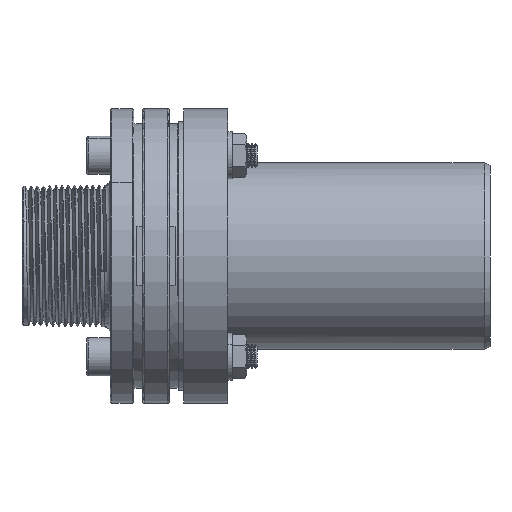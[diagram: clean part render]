
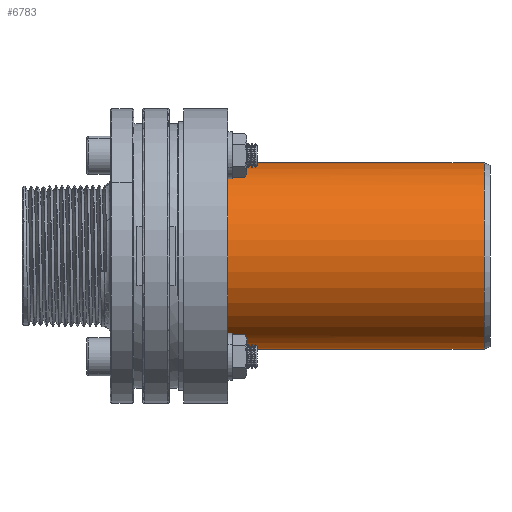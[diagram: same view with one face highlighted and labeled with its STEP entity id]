
A CAD part, left-side view. The second image highlights one B-rep face of the part: STEP entity #6783.
In plain terms, the highlighted cylindrical face has radius 31.6 mm (diameter 63.2 mm), a partial arc.
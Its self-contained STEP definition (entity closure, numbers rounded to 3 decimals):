
#417 = ORIENTED_EDGE ( 'NONE', *, *, #7787, .F. ) ;
#418 = ORIENTED_EDGE ( 'NONE', *, *, #29322, .T. ) ;
#419 = ORIENTED_EDGE ( 'NONE', *, *, #7786, .T. ) ;
#420 = ORIENTED_EDGE ( 'NONE', *, *, #7785, .F. ) ;
#421 = ORIENTED_EDGE ( 'NONE', *, *, #7784, .T. ) ;
#422 = ORIENTED_EDGE ( 'NONE', *, *, #7783, .T. ) ;
#423 = ORIENTED_EDGE ( 'NONE', *, *, #6891, .T. ) ;
#424 = ORIENTED_EDGE ( 'NONE', *, *, #7782, .T. ) ;
#425 = ORIENTED_EDGE ( 'NONE', *, *, #7781, .T. ) ;
#426 = ORIENTED_EDGE ( 'NONE', *, *, #7780, .T. ) ;
#427 = ORIENTED_EDGE ( 'NONE', *, *, #6867, .T. ) ;
#428 = ORIENTED_EDGE ( 'NONE', *, *, #7779, .T. ) ;
#1820 = CIRCLE ( 'NONE', #1822, 31.6 ) ;
#1822 = AXIS2_PLACEMENT_3D ( 'NONE', #20694, #20695, #20696 ) ;
#5922 = CARTESIAN_POINT ( 'NONE',  ( -16.767, 87.505, 26.785 ) ) ;
#5953 = CARTESIAN_POINT ( 'NONE',  ( -14.813, 89.105, -27.913 ) ) ;
#6004 = CARTESIAN_POINT ( 'NONE',  ( -14.813, 87.505, -27.913 ) ) ;
#6068 = CARTESIAN_POINT ( 'NONE',  ( -16.767, 89.105, 26.785 ) ) ;
#6108 = CARTESIAN_POINT ( 'NONE',  ( 0., 2., -31.6 ) ) ;
#6146 = CARTESIAN_POINT ( 'NONE',  ( -14.813, 87.505, 27.913 ) ) ;
#6158 = CARTESIAN_POINT ( 'NONE',  ( 0., 93.715, 31.6 ) ) ;
#6164 = CARTESIAN_POINT ( 'NONE',  ( 0., 2., 31.6 ) ) ;
#6175 = CARTESIAN_POINT ( 'NONE',  ( -16.767, 87.505, -26.785 ) ) ;
#6783 = ADVANCED_FACE ( 'NONE', ( #16852, #16854, #16855 ), #16853, .T. ) ;
#6867 = EDGE_CURVE ( 'NONE', #25146, #25095, #21784, .T. ) ;
#6891 = EDGE_CURVE ( 'NONE', #25064, #25210, #21857, .T. ) ;
#7779 = EDGE_CURVE ( 'NONE', #25095, #25413, #17640, .T. ) ;
#7780 = EDGE_CURVE ( 'NONE', #25317, #25146, #17644, .T. ) ;
#7781 = EDGE_CURVE ( 'NONE', #25413, #25317, #22996, .T. ) ;
#7782 = EDGE_CURVE ( 'NONE', #25210, #25391, #17648, .T. ) ;
#7783 = EDGE_CURVE ( 'NONE', #25288, #25064, #17649, .T. ) ;
#7784 = EDGE_CURVE ( 'NONE', #25391, #25288, #23008, .T. ) ;
#7785 = EDGE_CURVE ( 'NONE', #25306, #25250, #17653, .T. ) ;
#7786 = EDGE_CURVE ( 'NONE', #25375, #25250, #23019, .T. ) ;
#7787 = EDGE_CURVE ( 'NONE', #25300, #25306, #23018, .T. ) ;
#9847 = EDGE_LOOP ( 'NONE', ( #425, #426, #427, #428 ) ) ;
#9849 = EDGE_LOOP ( 'NONE', ( #417, #418, #419, #420 ) ) ;
#9851 = EDGE_LOOP ( 'NONE', ( #421, #422, #423, #424 ) ) ;
#14286 = CARTESIAN_POINT ( 'NONE',  ( 0., 93.715, -31.6 ) ) ;
#14302 = CARTESIAN_POINT ( 'NONE',  ( -14.813, 89.105, 27.913 ) ) ;
#14324 = CARTESIAN_POINT ( 'NONE',  ( -16.767, 89.105, -26.785 ) ) ;
#16583 = AXIS2_PLACEMENT_3D ( 'NONE', #16856, #16851, #16849 ) ;
#16849 = DIRECTION ( 'NONE',  ( 0., 0., -1. ) ) ;
#16851 = DIRECTION ( 'NONE',  ( 0., -1., 0. ) ) ;
#16852 = FACE_OUTER_BOUND ( 'NONE', #9849, .T. ) ;
#16853 = CYLINDRICAL_SURFACE ( 'NONE', #16583, 31.6 ) ;
#16854 = FACE_BOUND ( 'NONE', #9851, .T. ) ;
#16855 = FACE_BOUND ( 'NONE', #9847, .T. ) ;
#16856 = CARTESIAN_POINT ( 'NONE',  ( 0., 0., 0. ) ) ;
#17253 = VECTOR ( 'NONE', #21789, 1000. ) ;
#17291 = VECTOR ( 'NONE', #21862, 1000. ) ;
#17640 = CIRCLE ( 'NONE', #17645, 31.6 ) ;
#17642 = VECTOR ( 'NONE', #23024, 1000. ) ;
#17644 = CIRCLE ( 'NONE', #17647, 31.6 ) ;
#17645 = AXIS2_PLACEMENT_3D ( 'NONE', #23000, #23001, #23002 ) ;
#17646 = VECTOR ( 'NONE', #23007, 1000. ) ;
#17647 = AXIS2_PLACEMENT_3D ( 'NONE', #23003, #23004, #23005 ) ;
#17648 = CIRCLE ( 'NONE', #17650, 31.6 ) ;
#17649 = CIRCLE ( 'NONE', #17652, 31.6 ) ;
#17650 = AXIS2_PLACEMENT_3D ( 'NONE', #23010, #23011, #23012 ) ;
#17651 = VECTOR ( 'NONE', #23017, 1000. ) ;
#17652 = AXIS2_PLACEMENT_3D ( 'NONE', #23014, #23015, #23016 ) ;
#17653 = CIRCLE ( 'NONE', #17655, 31.6 ) ;
#17654 = VECTOR ( 'NONE', #23027, 1000. ) ;
#17655 = AXIS2_PLACEMENT_3D ( 'NONE', #23020, #23021, #23022 ) ;
#20694 = CARTESIAN_POINT ( 'NONE',  ( 0., 93.715, 0. ) ) ;
#20695 = DIRECTION ( 'NONE',  ( 0., -1., 0. ) ) ;
#20696 = DIRECTION ( 'NONE',  ( 0., 0., -1. ) ) ;
#21780 = CARTESIAN_POINT ( 'NONE',  ( -14.813, 88.305, -27.913 ) ) ;
#21784 = LINE ( 'NONE', #21780, #17253 ) ;
#21789 = DIRECTION ( 'NONE',  ( 0., 1., 0. ) ) ;
#21853 = CARTESIAN_POINT ( 'NONE',  ( -16.767, 88.305, 26.785 ) ) ;
#21857 = LINE ( 'NONE', #21853, #17291 ) ;
#21862 = DIRECTION ( 'NONE',  ( 0., 1., 0. ) ) ;
#22996 = LINE ( 'NONE', #23006, #17646 ) ;
#23000 = CARTESIAN_POINT ( 'NONE',  ( 0., 89.105, 0. ) ) ;
#23001 = DIRECTION ( 'NONE',  ( 0., 1., 0. ) ) ;
#23002 = DIRECTION ( 'NONE',  ( 0., 0., -1. ) ) ;
#23003 = CARTESIAN_POINT ( 'NONE',  ( 0., 87.505, 0. ) ) ;
#23004 = DIRECTION ( 'NONE',  ( 0., -1., 0. ) ) ;
#23005 = DIRECTION ( 'NONE',  ( 0., 0., 1. ) ) ;
#23006 = CARTESIAN_POINT ( 'NONE',  ( -16.767, 88.305, -26.785 ) ) ;
#23007 = DIRECTION ( 'NONE',  ( 0., -1., 0. ) ) ;
#23008 = LINE ( 'NONE', #23009, #17651 ) ;
#23009 = CARTESIAN_POINT ( 'NONE',  ( -14.813, 88.305, 27.913 ) ) ;
#23010 = CARTESIAN_POINT ( 'NONE',  ( 0., 89.105, 0. ) ) ;
#23011 = DIRECTION ( 'NONE',  ( 0., 1., 0. ) ) ;
#23012 = DIRECTION ( 'NONE',  ( 1., 0., 0. ) ) ;
#23013 = CARTESIAN_POINT ( 'NONE',  ( 0., 0., -31.6 ) ) ;
#23014 = CARTESIAN_POINT ( 'NONE',  ( 0., 87.505, 0. ) ) ;
#23015 = DIRECTION ( 'NONE',  ( 0., -1., 0. ) ) ;
#23016 = DIRECTION ( 'NONE',  ( -1., 0., 0. ) ) ;
#23017 = DIRECTION ( 'NONE',  ( 0., -1., 0. ) ) ;
#23018 = LINE ( 'NONE', #23025, #17654 ) ;
#23019 = LINE ( 'NONE', #23013, #17642 ) ;
#23020 = CARTESIAN_POINT ( 'NONE',  ( 0., 2., 0. ) ) ;
#23021 = DIRECTION ( 'NONE',  ( 0., -1., 0. ) ) ;
#23022 = DIRECTION ( 'NONE',  ( 0., 0., -1. ) ) ;
#23024 = DIRECTION ( 'NONE',  ( 0., -1., 0. ) ) ;
#23025 = CARTESIAN_POINT ( 'NONE',  ( 0., 0., 31.6 ) ) ;
#23027 = DIRECTION ( 'NONE',  ( 0., -1., 0. ) ) ;
#25064 = VERTEX_POINT ( 'NONE', #5922 ) ;
#25095 = VERTEX_POINT ( 'NONE', #5953 ) ;
#25146 = VERTEX_POINT ( 'NONE', #6004 ) ;
#25210 = VERTEX_POINT ( 'NONE', #6068 ) ;
#25250 = VERTEX_POINT ( 'NONE', #6108 ) ;
#25288 = VERTEX_POINT ( 'NONE', #6146 ) ;
#25300 = VERTEX_POINT ( 'NONE', #6158 ) ;
#25306 = VERTEX_POINT ( 'NONE', #6164 ) ;
#25317 = VERTEX_POINT ( 'NONE', #6175 ) ;
#25375 = VERTEX_POINT ( 'NONE', #14286 ) ;
#25391 = VERTEX_POINT ( 'NONE', #14302 ) ;
#25413 = VERTEX_POINT ( 'NONE', #14324 ) ;
#29322 = EDGE_CURVE ( 'NONE', #25300, #25375, #1820, .T. ) ;
